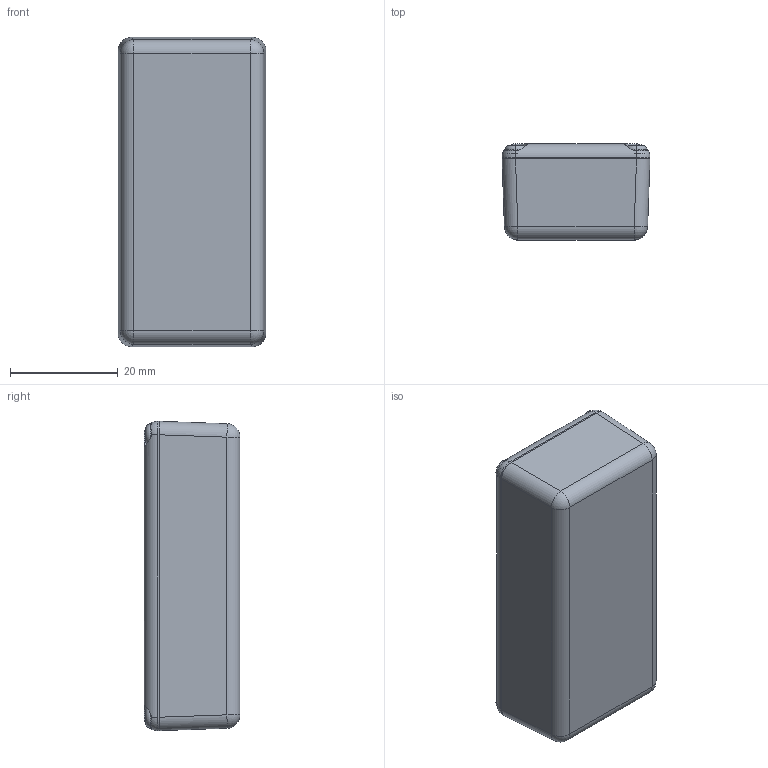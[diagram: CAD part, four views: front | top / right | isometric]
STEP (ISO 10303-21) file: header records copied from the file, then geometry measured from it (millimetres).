
FILE_DESCRIPTION (( 'STEP AP214' ), '1' );
FILE_NAME ('BMC-206L-5.STEP', '2021-04-01T01:35:46', ( '' ), ( '' ), 'SwSTEP 2.0', 'SolidWorks 2016', '' );
FILE_SCHEMA (( 'AUTOMOTIVE_DESIGN' ));
Length unit declared in the file: millimetre
Products named in the file (4): BMC-206L-5; BMC 206L Top; BMC 206L Bottom; BMC Screw
Assembly tree (6 placements, depth 2):
  BMC-206L-5
    BMC 206L Bottom
    BMC 206L Top
    BMC Screw  x4
Bounding box: 27.5 x 17.8 x 57.5 mm (x, y, z)
Volume: 8703 mm3; surface area: 12139.8 mm2
Topology: 6 solids, 6 shells, 909 faces, 2407 edges, 1592 vertices
Faces by surface type: plane 512, bspline 285, cylinder 60, cone 36, sphere 8, torus 8
Entity records: 39547 total; most frequent: CARTESIAN_POINT 21395, ORIENTED_EDGE 4242, DIRECTION 2709, EDGE_CURVE 2121, VERTEX_POINT 1406, LINE 1365, VECTOR 1365, EDGE_LOOP 883
